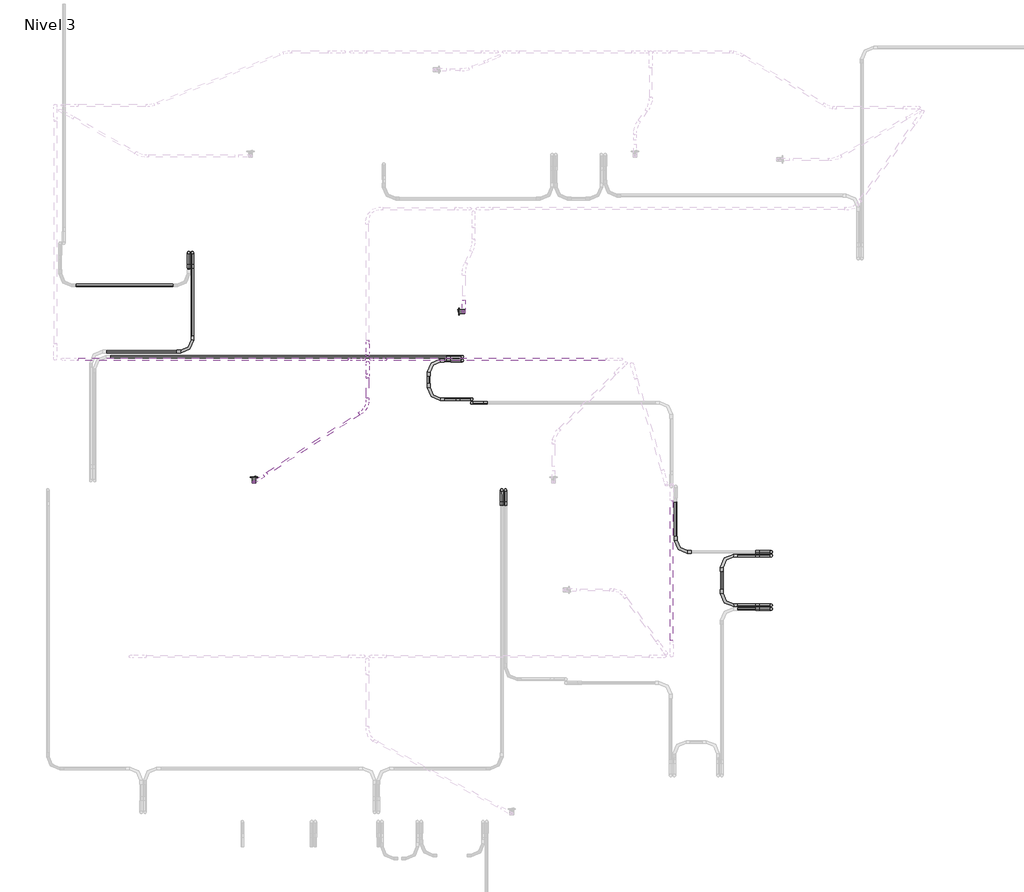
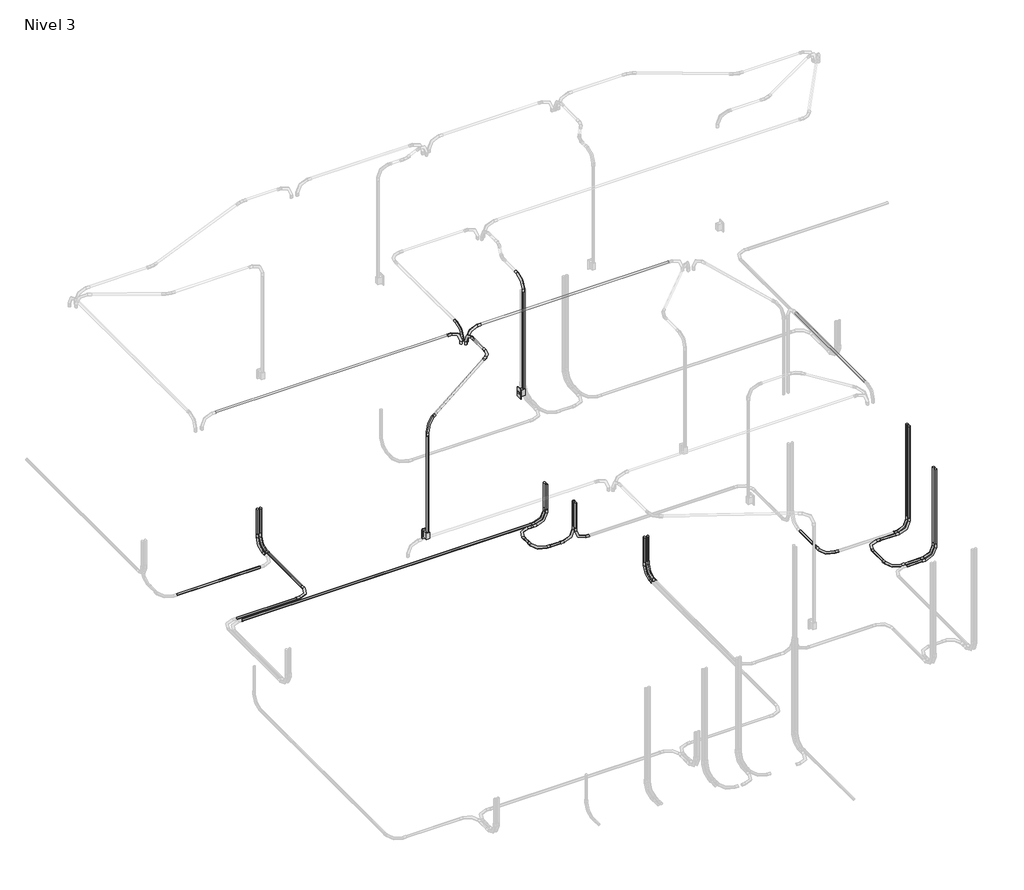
# One storey, part 7 of 9: 32 cable carrier segments, 25 cable carrier fittings, 2 switching devices.
"""IFC4 building model written with IfcOpenShell, lengths in millimetres."""

from ifc_helpers import new_model, si_unit, point, frame, frame_2d, origin, place, context, project, spatial, circle_curve, trimmed, segment, composite_curve, outline, extrude, transform, mapped, element, save
from components import m_codo_de_tubo_extremo_liso_pvc_9da73e12, m_codo_de_tubo_extremo_liso_pvc_102f0f41, m_codo_de_tubo_extremo_liso_pvc_76d9b60b, switching_device_22fed34b

model = new_model("IFC4")

# Units and contexts
model_context = context("Model", 3, world=origin())
ifc_project = project(units=[si_unit("LENGTHUNIT", "METRE", prefix="MILLI")], contexts=[model_context])

# Site, building, storey
site = spatial("IfcSite", under=ifc_project)
building = spatial("IfcBuilding", under=site)
storey = spatial("IfcBuildingStorey", under=building, Name="Nivel 3", Elevation=5450.0)

# Cable carrier fittings
placement = place(None, origin())
m_codo_de_tubo_extremo_liso_pvc_shape = m_codo_de_tubo_extremo_liso_pvc_9da73e12(model_context)
element("IfcCableCarrierFitting", 1, ObjectType="M_Codo de tubo - Extremo liso - PVC : CODO POTENCIA", at=placement, inside=storey, context=model_context, shape_type="MappedRepresentation", body=[
    mapped(m_codo_de_tubo_extremo_liso_pvc_shape, transform((693.5135129, 14563.117219, 5380.0), x_axis=(0.0, 0.0, -1.0), y_axis=(0.0, -1.0, 0.0), z_axis=(-1.0, 0.0, 0.0))),
])
element("IfcCableCarrierFitting", 2, ObjectType="M_Codo de tubo - Extremo liso - PVC : CODO POTENCIA", at=placement, inside=storey, context=model_context, shape_type="MappedRepresentation", body=[
    mapped(m_codo_de_tubo_extremo_liso_pvc_shape, transform((657.4498733, 14563.117219, 5380.0), x_axis=(0.0, 0.0, -1.0), y_axis=(0.0, -1.0, 0.0), z_axis=(-1.0, 0.0, 0.0))),
])
element("IfcCableCarrierFitting", 3, ObjectType="M_Codo de tubo - Extremo liso - PVC : CODO POTENCIA", at=placement, inside=storey, context=model_context, shape_type="MappedRepresentation", body=[
    mapped(m_codo_de_tubo_extremo_liso_pvc_shape, transform((6344.6371118, 11639.3432469, 5380.0), x_axis=(0.0, 0.0, -1.0), y_axis=(-1.0, 0.0, 0.0), z_axis=(0.0, 1.0, 0.0))),
])
element("IfcCableCarrierFitting", 4, ObjectType="M_Codo de tubo - Extremo liso - PVC : CODO POTENCIA", at=placement, inside=storey, context=model_context, shape_type="MappedRepresentation", body=[
    mapped(m_codo_de_tubo_extremo_liso_pvc_shape, transform((6344.6371118, 11603.2796073, 5380.0), x_axis=(0.0, 0.0, -1.0), y_axis=(-1.0, 0.0, 0.0), z_axis=(0.0, 1.0, 0.0))),
])
element("IfcCableCarrierFitting", 5, ObjectType="M_Codo de tubo - Extremo liso - PVC : CODO POTENCIA", at=placement, inside=storey, context=model_context, shape_type="MappedRepresentation", body=[
    mapped(m_codo_de_tubo_extremo_liso_pvc_shape, transform((6344.6371118, 11118.8284868, 5380.0), x_axis=(0.0, 0.0, -1.0), y_axis=(-1.0, 0.0, 0.0), z_axis=(0.0, 1.0, 0.0))),
])
element("IfcCableCarrierFitting", 6, ObjectType="M_Codo de tubo - Extremo liso - PVC : CODO POTENCIA", at=placement, inside=storey, context=model_context, shape_type="MappedRepresentation", body=[
    mapped(m_codo_de_tubo_extremo_liso_pvc_shape, transform((6344.6371118, 11082.7648472, 5380.0), x_axis=(0.0, 0.0, -1.0), y_axis=(-1.0, 0.0, 0.0), z_axis=(0.0, 1.0, 0.0))),
])
element("IfcCableCarrierFitting", 7, ObjectType="M_Codo de tubo - Extremo liso - PVC : CODO POTENCIA", at=placement, inside=storey, context=model_context, shape_type="MappedRepresentation", body=[
    mapped(m_codo_de_tubo_extremo_liso_pvc_shape, transform((5861.9683714, 11603.2796073, 5380.0), x_axis=(-1.0, 0.0, 0.0), y_axis=(0.0, -1.0, 0.0), z_axis=(0.0, 0.0, 1.0))),
])
element("IfcCableCarrierFitting", 8, ObjectType="M_Codo de tubo - Extremo liso - PVC : CODO POTENCIA", at=placement, inside=storey, context=model_context, shape_type="MappedRepresentation", body=[
    mapped(m_codo_de_tubo_extremo_liso_pvc_shape, transform((5861.9683714, 11118.8284868, 5380.0), x_axis=(0.0, -1.0, 0.0), y_axis=(1.0, 0.0, 0.0), z_axis=(0.0, 0.0, 1.0))),
])
element("IfcCableCarrierFitting", 9, ObjectType="M_Codo de tubo - Extremo liso - PVC : CODO POTENCIA", at=placement, inside=storey, context=model_context, shape_type="MappedRepresentation", body=[
    mapped(m_codo_de_tubo_extremo_liso_pvc_shape, transform((3750.0633148, 12244.6371118, 5380.0), x_axis=(0.0, 0.0, -1.0), y_axis=(0.0, -1.0, 0.0), z_axis=(-1.0, 0.0, 0.0))),
])
element("IfcCableCarrierFitting", 10, ObjectType="M_Codo de tubo - Extremo liso - PVC : CODO POTENCIA", at=placement, inside=storey, context=model_context, shape_type="MappedRepresentation", body=[
    mapped(m_codo_de_tubo_extremo_liso_pvc_shape, transform((3713.9996751, 12244.6371118, 5380.0), x_axis=(0.0, 0.0, -1.0), y_axis=(0.0, -1.0, 0.0), z_axis=(-1.0, 0.0, 0.0))),
])
element("IfcCableCarrierFitting", 11, ObjectType="M_Codo de tubo - Extremo liso - PVC : CODO POTENCIA", at=placement, inside=storey, context=model_context, shape_type="MappedRepresentation", body=[
    mapped(m_codo_de_tubo_extremo_liso_pvc_shape, transform((3420.363469, 13095.2791789, 5380.0), x_axis=(0.0, 0.0, -1.0), y_axis=(1.0, 0.0, 0.0), z_axis=(0.0, -1.0, 0.0))),
])
element("IfcCableCarrierFitting", 12, ObjectType="M_Codo de tubo - Extremo liso - PVC : CODO POTENCIA", at=placement, inside=storey, context=model_context, shape_type="MappedRepresentation", body=[
    mapped(m_codo_de_tubo_extremo_liso_pvc_shape, transform((5411.447338, 11639.3432469, 5380.0), x_axis=(0.0, -1.0, 0.0), y_axis=(1.0, 0.0, 0.0), z_axis=(0.0, 0.0, 1.0))),
])
element("IfcCableCarrierFitting", 13, ObjectType="M_Codo de tubo - Extremo liso - PVC : CODO POTENCIA", at=placement, inside=storey, context=model_context, shape_type="MappedRepresentation", body=[
    mapped(m_codo_de_tubo_extremo_liso_pvc_shape, transform((3329.6376926, 13509.7087096, 5380.0), x_axis=(0.0, 0.0, -1.0), y_axis=(-1.0, 0.0, 0.0), z_axis=(0.0, 1.0, 0.0))),
])
element("IfcCableCarrierFitting", 14, ObjectType="M_Codo de tubo - Extremo liso - PVC : CODO POTENCIA", at=placement, inside=storey, context=model_context, shape_type="MappedRepresentation", body=[
    mapped(m_codo_de_tubo_extremo_liso_pvc_shape, transform((3329.6376926, 13545.7723493, 5380.0), x_axis=(0.0, 0.0, -1.0), y_axis=(-1.0, 0.0, 0.0), z_axis=(0.0, 1.0, 0.0))),
])
element("IfcCableCarrierFitting", 15, ObjectType="M_Codo de tubo - Extremo liso - PVC : CODO POTENCIA", at=placement, inside=storey, context=model_context, shape_type="MappedRepresentation", body=[
    mapped(m_codo_de_tubo_extremo_liso_pvc_shape, transform((3000.0, 13509.7087096, 5380.0), x_axis=(-1.0, 0.0, 0.0), y_axis=(0.0, -1.0, 0.0), z_axis=(0.0, 0.0, 1.0))),
])
element("IfcCableCarrierFitting", 16, ObjectType="M_Codo de tubo - Extremo liso - PVC : CODO POTENCIA", at=placement, inside=storey, context=model_context, shape_type="MappedRepresentation", body=[
    mapped(m_codo_de_tubo_extremo_liso_pvc_shape, transform((3000.0, 13131.3428185, 5380.0), x_axis=(0.0, -1.0, 0.0), y_axis=(1.0, 0.0, 0.0), z_axis=(0.0, 0.0, 1.0))),
])
element("IfcCableCarrierFitting", 17, ObjectType="M_Codo de tubo - Extremo liso - PVC : CODO POTENCIA", at=placement, inside=storey, context=model_context, shape_type="MappedRepresentation", body=[
    mapped(m_codo_de_tubo_extremo_liso_pvc_shape, transform((3420.363469, 13131.3428185, 5380.0), x_axis=(0.0, 0.0, -1.0), y_axis=(-1.0, 0.0, 0.0), z_axis=(0.0, 1.0, 0.0))),
])
element("IfcCableCarrierFitting", 18, ObjectType="M_Codo de tubo - Extremo liso - PVC : CODO POTENCIA", at=placement, inside=storey, context=model_context, shape_type="MappedRepresentation", body=[
    mapped(m_codo_de_tubo_extremo_liso_pvc_shape, transform((693.5135129, 13596.0465616, 5380.0), x_axis=(1.0, 0.0, 0.0), y_axis=(0.0, 1.0, 0.0), z_axis=(0.0, 0.0, 1.0))),
])
element("IfcCableCarrierFitting", 19, ObjectType="M_Codo de tubo - Extremo liso - PVC : CODO ILUMINACION", at=placement, inside=storey, context=model_context, shape_type="MappedRepresentation", body=[
    mapped(m_codo_de_tubo_extremo_liso_pvc_shape, transform((2437.1421514, 13521.2601744, 8000.0), x_axis=(-1.0, 0.0, 0.0), y_axis=(0.0, 0.0, -1.0), z_axis=(0.0, -1.0, 0.0))),
])
element("IfcCableCarrierFitting", 20, ObjectType="M_Codo de tubo - Extremo liso - PVC : CODO ILUMINACION", at=placement, inside=storey, context=model_context, shape_type="MappedRepresentation", body=[
    mapped(m_codo_de_tubo_extremo_liso_pvc_shape, transform((3343.1394564, 13985.3219698, 8000.0), x_axis=(0.0, 0.0, 1.0), y_axis=(0.0, 1.0, 0.0), z_axis=(-1.0, 0.0, 0.0))),
])
element("IfcCableCarrierFitting", 21, ObjectType="M_Codo de tubo - Extremo liso - PVC : CODO ILUMINACION", at=placement, inside=storey, context=model_context, shape_type="MappedRepresentation", body=[
    mapped(m_codo_de_tubo_extremo_liso_pvc_shape, transform((2405.2097778, 13557.4891468, 8000.0), x_axis=(0.003624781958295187, -0.9999934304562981, 0.0), y_axis=(0.0, 0.0, -1.0000000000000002), z_axis=(0.9999934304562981, 0.003624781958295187, 0.0))),
])
element("IfcCableCarrierFitting", 22, ObjectType="M_Codo de tubo - Extremo liso - PVC : CODO ILUMINACION", at=placement, inside=storey, context=model_context, shape_type="MappedRepresentation", body=[
    mapped(m_codo_de_tubo_extremo_liso_pvc_shape, transform((1294.5944838, 12321.8611243, 8000.0), x_axis=(0.0, 0.0, 1.0), y_axis=(0.8386705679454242, 0.5446390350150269, 0.0), z_axis=(-0.5446390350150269, 0.8386705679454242, 0.0))),
])
m_codo_de_tubo_extremo_liso_pvc_2_shape = m_codo_de_tubo_extremo_liso_pvc_102f0f41(model_context)
element("IfcCableCarrierFitting", 23, ObjectType="M_Codo de tubo - Extremo liso - PVC : CODO ILUMINACION", at=placement, inside=storey, context=model_context, shape_type="MappedRepresentation", body=[
    mapped(m_codo_de_tubo_extremo_liso_pvc_2_shape, transform((2369.1118904, 13521.2601744, 8000.0), x_axis=(1.0, 0.0, 0.0), y_axis=(0.0, 0.0, 1.0), z_axis=(0.0, -1.0, 0.0))),
])
element("IfcCableCarrierFitting", 24, ObjectType="M_Codo de tubo - Extremo liso - PVC : CODO ILUMINACION", at=placement, inside=storey, context=model_context, shape_type="MappedRepresentation", body=[
    mapped(m_codo_de_tubo_extremo_liso_pvc_2_shape, transform((2405.2097778, 13489.4433397, 8000.0), x_axis=(0.003624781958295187, 0.9999934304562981, 0.0), y_axis=(0.0, 0.0, 1.0000000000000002), z_axis=(0.9999934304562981, -0.003624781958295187, 0.0))),
])
m_codo_de_tubo_extremo_liso_pvc_3_shape = m_codo_de_tubo_extremo_liso_pvc_76d9b60b(model_context)
element("IfcCableCarrierFitting", 25, ObjectType="M_Codo de tubo - Extremo liso - PVC : CODO ILUMINACION", at=placement, inside=storey, context=model_context, shape_type="MappedRepresentation", body=[
    mapped(m_codo_de_tubo_extremo_liso_pvc_3_shape, transform((2403.5880638, 13042.049976, 8000.0), x_axis=(0.8386705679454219, 0.5446390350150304, 0.0), y_axis=(-0.5446390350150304, 0.8386705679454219, 0.0), z_axis=(0.0, 0.0, 1.0))),
])

# Cable carrier segments
element("IfcCableCarrierSegment", 26, ObjectType="PVC-SEL, POTENCIA", at=placement, inside=storey, context=model_context, shape_type="SweptSolid", body=[
    extrude(outline(composite_curve([segment(trimmed(circle_curve(frame_2d((5380.0, 693.5135129)), 11.71), [point((5380.0, 681.8035129))], [point((5368.29, 693.5135129))], False, "CARTESIAN"), True, "CONTINUOUS"), segment(trimmed(circle_curve(frame_2d((5380.0, 693.5135129)), 11.71), [point((5368.29, 693.5135129))], [point((5380.0, 705.2235129))], False, "CARTESIAN"), True, "CONTINUOUS"), segment(trimmed(circle_curve(frame_2d((5380.0, 693.5135129)), 11.71), [point((5380.0, 705.2235129))], [point((5391.71, 693.5135129))], False, "CARTESIAN"), True, "CONTINUOUS"), segment(trimmed(circle_curve(frame_2d((5380.0, 693.5135129)), 11.71), [point((5391.71, 693.5135129))], [point((5380.0, 681.8035129))], False, "CARTESIAN"), True, "CONTINUOUS")], self_intersect=False)), frame((0.0, 13748.4465616, 0.0), z_axis=(0.0, 1.0, 0.0), x_axis=(0.0, 0.0, 1.0)), (0.0, 0.0, 1.0), 662.2706574),
])
element("IfcCableCarrierSegment", 27, ObjectType="PVC-SEL, POTENCIA", at=placement, inside=storey, context=model_context, shape_type="SweptSolid", body=[
    extrude(outline(composite_curve([segment(trimmed(circle_curve(frame_2d((693.5135129, 14563.117219)), 11.71), [point((705.2235129, 14563.117219))], [point((693.5135129, 14551.407219))], False, "CARTESIAN"), True, "CONTINUOUS"), segment(trimmed(circle_curve(frame_2d((693.5135129, 14563.117219)), 11.71), [point((693.5135129, 14551.407219))], [point((681.8035129, 14563.117219))], False, "CARTESIAN"), True, "CONTINUOUS"), segment(trimmed(circle_curve(frame_2d((693.5135129, 14563.117219)), 11.71), [point((681.8035129, 14563.117219))], [point((693.5135129, 14574.827219))], False, "CARTESIAN"), True, "CONTINUOUS"), segment(trimmed(circle_curve(frame_2d((693.5135129, 14563.117219)), 11.71), [point((693.5135129, 14574.827219))], [point((705.2235129, 14563.117219))], False, "CARTESIAN"), True, "CONTINUOUS")], self_intersect=False)), frame((0.0, 0.0, 5532.4), z_axis=(0.0, 0.0, 1.0), x_axis=(1.0, 0.0, 0.0)), (0.0, 0.0, 1.0), 297.3020537),
])
element("IfcCableCarrierSegment", 28, ObjectType="PVC-SEL, POTENCIA", at=placement, inside=storey, context=model_context, shape_type="SweptSolid", body=[
    extrude(outline(composite_curve([segment(trimmed(circle_curve(frame_2d((5380.0, 657.4498733)), 11.71), [point((5380.0, 645.7398733))], [point((5368.29, 657.4498733))], False, "CARTESIAN"), True, "CONTINUOUS"), segment(trimmed(circle_curve(frame_2d((5380.0, 657.4498733)), 11.71), [point((5368.29, 657.4498733))], [point((5380.0, 669.1598733))], False, "CARTESIAN"), True, "CONTINUOUS"), segment(trimmed(circle_curve(frame_2d((5380.0, 657.4498733)), 11.71), [point((5380.0, 669.1598733))], [point((5391.71, 657.4498733))], False, "CARTESIAN"), True, "CONTINUOUS"), segment(trimmed(circle_curve(frame_2d((5380.0, 657.4498733)), 11.71), [point((5391.71, 657.4498733))], [point((5380.0, 645.7398733))], False, "CARTESIAN"), True, "CONTINUOUS")], self_intersect=False)), frame((0.0, 14395.517219, 0.0), z_axis=(0.0, 1.0, 0.0), x_axis=(0.0, 0.0, 1.0)), (0.0, 0.0, 1.0), 15.2),
])
element("IfcCableCarrierSegment", 29, ObjectType="PVC-SEL, POTENCIA", at=placement, inside=storey, context=model_context, shape_type="SweptSolid", body=[
    extrude(outline(composite_curve([segment(trimmed(circle_curve(frame_2d((657.4498733, 14563.117219)), 11.71), [point((669.1598733, 14563.117219))], [point((657.4498733, 14551.407219))], False, "CARTESIAN"), True, "CONTINUOUS"), segment(trimmed(circle_curve(frame_2d((657.4498733, 14563.117219)), 11.71), [point((657.4498733, 14551.407219))], [point((645.7398733, 14563.117219))], False, "CARTESIAN"), True, "CONTINUOUS"), segment(trimmed(circle_curve(frame_2d((657.4498733, 14563.117219)), 11.71), [point((645.7398733, 14563.117219))], [point((657.4498733, 14574.827219))], False, "CARTESIAN"), True, "CONTINUOUS"), segment(trimmed(circle_curve(frame_2d((657.4498733, 14563.117219)), 11.71), [point((657.4498733, 14574.827219))], [point((669.1598733, 14563.117219))], False, "CARTESIAN"), True, "CONTINUOUS")], self_intersect=False)), frame((0.0, 0.0, 5532.4), z_axis=(0.0, 0.0, 1.0), x_axis=(1.0, 0.0, 0.0)), (0.0, 0.0, 1.0), 297.3020537),
])
element("IfcCableCarrierSegment", 30, ObjectType="PVC-SEL, POTENCIA", at=placement, inside=storey, context=model_context, shape_type="SweptSolid", body=[
    extrude(outline(composite_curve([segment(trimmed(circle_curve(frame_2d((6344.6371118, 11639.3432469)), 11.71), [point((6356.3471118, 11639.3432469))], [point((6344.6371118, 11627.6332469))], False, "CARTESIAN"), True, "CONTINUOUS"), segment(trimmed(circle_curve(frame_2d((6344.6371118, 11639.3432469)), 11.71), [point((6344.6371118, 11627.6332469))], [point((6332.9271118, 11639.3432469))], False, "CARTESIAN"), True, "CONTINUOUS"), segment(trimmed(circle_curve(frame_2d((6344.6371118, 11639.3432469)), 11.71), [point((6332.9271118, 11639.3432469))], [point((6344.6371118, 11651.0532469))], False, "CARTESIAN"), True, "CONTINUOUS"), segment(trimmed(circle_curve(frame_2d((6344.6371118, 11639.3432469)), 11.71), [point((6344.6371118, 11651.0532469))], [point((6356.3471118, 11639.3432469))], False, "CARTESIAN"), True, "CONTINUOUS")], self_intersect=False)), frame((0.0, 0.0, 5532.4), z_axis=(0.0, 0.0, 1.0), x_axis=(1.0, 0.0, 0.0)), (0.0, 0.0, 1.0), 1097.3020537),
])
element("IfcCableCarrierSegment", 31, ObjectType="PVC-SEL, POTENCIA", at=placement, inside=storey, context=model_context, shape_type="SweptSolid", body=[
    extrude(outline(composite_curve([segment(trimmed(circle_curve(frame_2d((11603.2796073, 5380.0)), 11.71), [point((11614.9896073, 5380.0))], [point((11603.2796073, 5368.29))], False, "CARTESIAN"), True, "CONTINUOUS"), segment(trimmed(circle_curve(frame_2d((11603.2796073, 5380.0)), 11.71), [point((11603.2796073, 5368.29))], [point((11591.5696073, 5380.0))], False, "CARTESIAN"), True, "CONTINUOUS"), segment(trimmed(circle_curve(frame_2d((11603.2796073, 5380.0)), 11.71), [point((11591.5696073, 5380.0))], [point((11603.2796073, 5391.71))], False, "CARTESIAN"), True, "CONTINUOUS"), segment(trimmed(circle_curve(frame_2d((11603.2796073, 5380.0)), 11.71), [point((11603.2796073, 5391.71))], [point((11614.9896073, 5380.0))], False, "CARTESIAN"), True, "CONTINUOUS")], self_intersect=False)), frame((6014.3683714, 0.0, 0.0), z_axis=(1.0, 0.0, 0.0), x_axis=(0.0, 1.0, 0.0)), (0.0, 0.0, 1.0), 177.8687404),
])
element("IfcCableCarrierSegment", 32, ObjectType="PVC-SEL, POTENCIA", at=placement, inside=storey, context=model_context, shape_type="SweptSolid", body=[
    extrude(outline(composite_curve([segment(trimmed(circle_curve(frame_2d((6344.6371118, 11603.2796073)), 11.71), [point((6356.3471118, 11603.2796073))], [point((6344.6371118, 11591.5696073))], False, "CARTESIAN"), True, "CONTINUOUS"), segment(trimmed(circle_curve(frame_2d((6344.6371118, 11603.2796073)), 11.71), [point((6344.6371118, 11591.5696073))], [point((6332.9271118, 11603.2796073))], False, "CARTESIAN"), True, "CONTINUOUS"), segment(trimmed(circle_curve(frame_2d((6344.6371118, 11603.2796073)), 11.71), [point((6332.9271118, 11603.2796073))], [point((6344.6371118, 11614.9896073))], False, "CARTESIAN"), True, "CONTINUOUS"), segment(trimmed(circle_curve(frame_2d((6344.6371118, 11603.2796073)), 11.71), [point((6344.6371118, 11614.9896073))], [point((6356.3471118, 11603.2796073))], False, "CARTESIAN"), True, "CONTINUOUS")], self_intersect=False)), frame((0.0, 0.0, 5532.4), z_axis=(0.0, 0.0, 1.0), x_axis=(1.0, 0.0, 0.0)), (0.0, 0.0, 1.0), 1097.3020537),
])
element("IfcCableCarrierSegment", 33, ObjectType="PVC-SEL, POTENCIA", at=placement, inside=storey, context=model_context, shape_type="SweptSolid", body=[
    extrude(outline(composite_curve([segment(trimmed(circle_curve(frame_2d((11118.8284868, 5380.0)), 11.71), [point((11130.5384868, 5380.0))], [point((11118.8284868, 5368.29))], False, "CARTESIAN"), True, "CONTINUOUS"), segment(trimmed(circle_curve(frame_2d((11118.8284868, 5380.0)), 11.71), [point((11118.8284868, 5368.29))], [point((11107.1184868, 5380.0))], False, "CARTESIAN"), True, "CONTINUOUS"), segment(trimmed(circle_curve(frame_2d((11118.8284868, 5380.0)), 11.71), [point((11107.1184868, 5380.0))], [point((11118.8284868, 5391.71))], False, "CARTESIAN"), True, "CONTINUOUS"), segment(trimmed(circle_curve(frame_2d((11118.8284868, 5380.0)), 11.71), [point((11118.8284868, 5391.71))], [point((11130.5384868, 5380.0))], False, "CARTESIAN"), True, "CONTINUOUS")], self_intersect=False)), frame((6014.3683714, 0.0, 0.0), z_axis=(1.0, 0.0, 0.0), x_axis=(0.0, 1.0, 0.0)), (0.0, 0.0, 1.0), 177.8687404),
])
element("IfcCableCarrierSegment", 34, ObjectType="PVC-SEL, POTENCIA", at=placement, inside=storey, context=model_context, shape_type="SweptSolid", body=[
    extrude(outline(composite_curve([segment(trimmed(circle_curve(frame_2d((6344.6371118, 11118.8284868)), 11.71), [point((6356.3471118, 11118.8284868))], [point((6344.6371118, 11107.1184868))], False, "CARTESIAN"), True, "CONTINUOUS"), segment(trimmed(circle_curve(frame_2d((6344.6371118, 11118.8284868)), 11.71), [point((6344.6371118, 11107.1184868))], [point((6332.9271118, 11118.8284868))], False, "CARTESIAN"), True, "CONTINUOUS"), segment(trimmed(circle_curve(frame_2d((6344.6371118, 11118.8284868)), 11.71), [point((6332.9271118, 11118.8284868))], [point((6344.6371118, 11130.5384868))], False, "CARTESIAN"), True, "CONTINUOUS"), segment(trimmed(circle_curve(frame_2d((6344.6371118, 11118.8284868)), 11.71), [point((6344.6371118, 11130.5384868))], [point((6356.3471118, 11118.8284868))], False, "CARTESIAN"), True, "CONTINUOUS")], self_intersect=False)), frame((0.0, 0.0, 5532.4), z_axis=(0.0, 0.0, 1.0), x_axis=(1.0, 0.0, 0.0)), (0.0, 0.0, 1.0), 897.3020537),
])
element("IfcCableCarrierSegment", 35, ObjectType="PVC-SEL, POTENCIA", at=placement, inside=storey, context=model_context, shape_type="SweptSolid", body=[
    extrude(outline(composite_curve([segment(trimmed(circle_curve(frame_2d((11082.7648472, 5380.0)), 11.71), [point((11094.4748472, 5380.0))], [point((11082.7648472, 5368.29))], False, "CARTESIAN"), True, "CONTINUOUS"), segment(trimmed(circle_curve(frame_2d((11082.7648472, 5380.0)), 11.71), [point((11082.7648472, 5368.29))], [point((11071.0548472, 5380.0))], False, "CARTESIAN"), True, "CONTINUOUS"), segment(trimmed(circle_curve(frame_2d((11082.7648472, 5380.0)), 11.71), [point((11071.0548472, 5380.0))], [point((11082.7648472, 5391.71))], False, "CARTESIAN"), True, "CONTINUOUS"), segment(trimmed(circle_curve(frame_2d((11082.7648472, 5380.0)), 11.71), [point((11082.7648472, 5391.71))], [point((11094.4748472, 5380.0))], False, "CARTESIAN"), True, "CONTINUOUS")], self_intersect=False)), frame((6014.3683714, 0.0, 0.0), z_axis=(1.0, 0.0, 0.0), x_axis=(0.0, 1.0, 0.0)), (0.0, 0.0, 1.0), 177.8687404),
])
element("IfcCableCarrierSegment", 36, ObjectType="PVC-SEL, POTENCIA", at=placement, inside=storey, context=model_context, shape_type="SweptSolid", body=[
    extrude(outline(composite_curve([segment(trimmed(circle_curve(frame_2d((6344.6371118, 11082.7648472)), 11.71), [point((6356.3471118, 11082.7648472))], [point((6344.6371118, 11071.0548472))], False, "CARTESIAN"), True, "CONTINUOUS"), segment(trimmed(circle_curve(frame_2d((6344.6371118, 11082.7648472)), 11.71), [point((6344.6371118, 11071.0548472))], [point((6332.9271118, 11082.7648472))], False, "CARTESIAN"), True, "CONTINUOUS"), segment(trimmed(circle_curve(frame_2d((6344.6371118, 11082.7648472)), 11.71), [point((6332.9271118, 11082.7648472))], [point((6344.6371118, 11094.4748472))], False, "CARTESIAN"), True, "CONTINUOUS"), segment(trimmed(circle_curve(frame_2d((6344.6371118, 11082.7648472)), 11.71), [point((6344.6371118, 11094.4748472))], [point((6356.3471118, 11082.7648472))], False, "CARTESIAN"), True, "CONTINUOUS")], self_intersect=False)), frame((0.0, 0.0, 5532.4), z_axis=(0.0, 0.0, 1.0), x_axis=(1.0, 0.0, 0.0)), (0.0, 0.0, 1.0), 897.3020537),
])
element("IfcCableCarrierSegment", 37, ObjectType="PVC-SEL, POTENCIA", at=placement, inside=storey, context=model_context, shape_type="SweptSolid", body=[
    extrude(outline(composite_curve([segment(trimmed(circle_curve(frame_2d((5380.0, 5861.9683714)), 11.71), [point((5380.0, 5850.2583714))], [point((5368.29, 5861.9683714))], False, "CARTESIAN"), True, "CONTINUOUS"), segment(trimmed(circle_curve(frame_2d((5380.0, 5861.9683714)), 11.71), [point((5368.29, 5861.9683714))], [point((5380.0, 5873.6783714))], False, "CARTESIAN"), True, "CONTINUOUS"), segment(trimmed(circle_curve(frame_2d((5380.0, 5861.9683714)), 11.71), [point((5380.0, 5873.6783714))], [point((5391.71, 5861.9683714))], False, "CARTESIAN"), True, "CONTINUOUS"), segment(trimmed(circle_curve(frame_2d((5380.0, 5861.9683714)), 11.71), [point((5391.71, 5861.9683714))], [point((5380.0, 5850.2583714))], False, "CARTESIAN"), True, "CONTINUOUS")], self_intersect=False)), frame((0.0, 11271.2284868, 0.0), z_axis=(0.0, 1.0, 0.0), x_axis=(0.0, 0.0, 1.0)), (0.0, 0.0, 1.0), 179.6511205),
])
element("IfcCableCarrierSegment", 38, ObjectType="PVC-SEL, POTENCIA", at=placement, inside=storey, context=model_context, shape_type="SweptSolid", body=[
    extrude(outline(composite_curve([segment(trimmed(circle_curve(frame_2d((3750.0633148, 12244.6371118)), 11.71), [point((3761.7733148, 12244.6371118))], [point((3750.0633148, 12232.9271118))], False, "CARTESIAN"), True, "CONTINUOUS"), segment(trimmed(circle_curve(frame_2d((3750.0633148, 12244.6371118)), 11.71), [point((3750.0633148, 12232.9271118))], [point((3738.3533148, 12244.6371118))], False, "CARTESIAN"), True, "CONTINUOUS"), segment(trimmed(circle_curve(frame_2d((3750.0633148, 12244.6371118)), 11.71), [point((3738.3533148, 12244.6371118))], [point((3750.0633148, 12256.3471118))], False, "CARTESIAN"), True, "CONTINUOUS"), segment(trimmed(circle_curve(frame_2d((3750.0633148, 12244.6371118)), 11.71), [point((3750.0633148, 12256.3471118))], [point((3761.7733148, 12244.6371118))], False, "CARTESIAN"), True, "CONTINUOUS")], self_intersect=False)), frame((0.0, 0.0, 5532.4), z_axis=(0.0, 0.0, 1.0), x_axis=(1.0, 0.0, 0.0)), (0.0, 0.0, 1.0), 297.3020537),
])
element("IfcCableCarrierSegment", 39, ObjectType="PVC-SEL, POTENCIA", at=placement, inside=storey, context=model_context, shape_type="SweptSolid", body=[
    extrude(outline(composite_curve([segment(trimmed(circle_curve(frame_2d((3713.9996751, 12244.6371118)), 11.71), [point((3725.7096751, 12244.6371118))], [point((3713.9996751, 12232.9271118))], False, "CARTESIAN"), True, "CONTINUOUS"), segment(trimmed(circle_curve(frame_2d((3713.9996751, 12244.6371118)), 11.71), [point((3713.9996751, 12232.9271118))], [point((3702.2896751, 12244.6371118))], False, "CARTESIAN"), True, "CONTINUOUS"), segment(trimmed(circle_curve(frame_2d((3713.9996751, 12244.6371118)), 11.71), [point((3702.2896751, 12244.6371118))], [point((3713.9996751, 12256.3471118))], False, "CARTESIAN"), True, "CONTINUOUS"), segment(trimmed(circle_curve(frame_2d((3713.9996751, 12244.6371118)), 11.71), [point((3713.9996751, 12256.3471118))], [point((3725.7096751, 12244.6371118))], False, "CARTESIAN"), True, "CONTINUOUS")], self_intersect=False)), frame((0.0, 0.0, 5532.4), z_axis=(0.0, 0.0, 1.0), x_axis=(1.0, 0.0, 0.0)), (0.0, 0.0, 1.0), 297.3020537),
])
element("IfcCableCarrierSegment", 40, ObjectType="PVC-SEL, POTENCIA", at=placement, inside=storey, context=model_context, shape_type="SweptSolid", body=[
    extrude(outline(composite_curve([segment(trimmed(circle_curve(frame_2d((3420.363469, 13095.2791789)), 11.71), [point((3432.073469, 13095.2791789))], [point((3420.363469, 13083.5691789))], False, "CARTESIAN"), True, "CONTINUOUS"), segment(trimmed(circle_curve(frame_2d((3420.363469, 13095.2791789)), 11.71), [point((3420.363469, 13083.5691789))], [point((3408.653469, 13095.2791789))], False, "CARTESIAN"), True, "CONTINUOUS"), segment(trimmed(circle_curve(frame_2d((3420.363469, 13095.2791789)), 11.71), [point((3408.653469, 13095.2791789))], [point((3420.363469, 13106.9891789))], False, "CARTESIAN"), True, "CONTINUOUS"), segment(trimmed(circle_curve(frame_2d((3420.363469, 13095.2791789)), 11.71), [point((3420.363469, 13106.9891789))], [point((3432.073469, 13095.2791789))], False, "CARTESIAN"), True, "CONTINUOUS")], self_intersect=False)), frame((0.0, 0.0, 5532.4), z_axis=(0.0, 0.0, 1.0), x_axis=(1.0, 0.0, 0.0)), (0.0, 0.0, 1.0), 297.3020537),
])
element("IfcCableCarrierSegment", 41, ObjectType="PVC-SEL, POTENCIA", at=placement, inside=storey, context=model_context, shape_type="SweptSolid", body=[
    extrude(outline(composite_curve([segment(trimmed(circle_curve(frame_2d((5380.0, 5411.447338)), 11.71), [point((5380.0, 5423.157338))], [point((5391.71, 5411.447338))], False, "CARTESIAN"), True, "CONTINUOUS"), segment(trimmed(circle_curve(frame_2d((5380.0, 5411.447338)), 11.71), [point((5391.71, 5411.447338))], [point((5380.0, 5399.737338))], False, "CARTESIAN"), True, "CONTINUOUS"), segment(trimmed(circle_curve(frame_2d((5380.0, 5411.447338)), 11.71), [point((5380.0, 5399.737338))], [point((5368.29, 5411.447338))], False, "CARTESIAN"), True, "CONTINUOUS"), segment(trimmed(circle_curve(frame_2d((5380.0, 5411.447338)), 11.71), [point((5368.29, 5411.447338))], [point((5380.0, 5423.157338))], False, "CARTESIAN"), True, "CONTINUOUS")], self_intersect=False)), frame((0.0, 11791.7432469, 0.0), z_axis=(0.0, 1.0, 0.0), x_axis=(0.0, 0.0, 1.0)), (0.0, 0.0, 1.0), 335.2),
])
element("IfcCableCarrierSegment", 42, ObjectType="PVC-SEL, POTENCIA", at=placement, inside=storey, context=model_context, shape_type="SweptSolid", body=[
    extrude(outline(composite_curve([segment(trimmed(circle_curve(frame_2d((13131.3428185, 5380.0)), 11.71), [point((13119.6328185, 5380.0))], [point((13131.3428185, 5391.71))], False, "CARTESIAN"), True, "CONTINUOUS"), segment(trimmed(circle_curve(frame_2d((13131.3428185, 5380.0)), 11.71), [point((13131.3428185, 5391.71))], [point((13143.0528185, 5380.0))], False, "CARTESIAN"), True, "CONTINUOUS"), segment(trimmed(circle_curve(frame_2d((13131.3428185, 5380.0)), 11.71), [point((13143.0528185, 5380.0))], [point((13131.3428185, 5368.29))], False, "CARTESIAN"), True, "CONTINUOUS"), segment(trimmed(circle_curve(frame_2d((13131.3428185, 5380.0)), 11.71), [point((13131.3428185, 5368.29))], [point((13119.6328185, 5380.0))], False, "CARTESIAN"), True, "CONTINUOUS")], self_intersect=False)), frame((3152.4, 0.0, 0.0), z_axis=(1.0, 0.0, 0.0), x_axis=(0.0, 1.0, 0.0)), (0.0, 0.0, 1.0), 115.563469),
])
element("IfcCableCarrierSegment", 43, ObjectType="PVC-SEL, POTENCIA", at=placement, inside=storey, context=model_context, shape_type="SweptSolid", body=[
    extrude(outline(composite_curve([segment(trimmed(circle_curve(frame_2d((3420.363469, 13131.3428185)), 11.71), [point((3432.073469, 13131.3428185))], [point((3420.363469, 13119.6328185))], False, "CARTESIAN"), True, "CONTINUOUS"), segment(trimmed(circle_curve(frame_2d((3420.363469, 13131.3428185)), 11.71), [point((3420.363469, 13119.6328185))], [point((3408.653469, 13131.3428185))], False, "CARTESIAN"), True, "CONTINUOUS"), segment(trimmed(circle_curve(frame_2d((3420.363469, 13131.3428185)), 11.71), [point((3408.653469, 13131.3428185))], [point((3420.363469, 13143.0528185))], False, "CARTESIAN"), True, "CONTINUOUS"), segment(trimmed(circle_curve(frame_2d((3420.363469, 13131.3428185)), 11.71), [point((3420.363469, 13143.0528185))], [point((3432.073469, 13131.3428185))], False, "CARTESIAN"), True, "CONTINUOUS")], self_intersect=False)), frame((0.0, 0.0, 5532.4), z_axis=(0.0, 0.0, 1.0), x_axis=(1.0, 0.0, 0.0)), (0.0, 0.0, 1.0), 297.3020537),
])
element("IfcCableCarrierSegment", 44, ObjectType="PVC-SEL, POTENCIA", at=placement, inside=storey, context=model_context, shape_type="SweptSolid", body=[
    extrude(outline(composite_curve([segment(trimmed(circle_curve(frame_2d((13509.7087096, 5380.0)), 11.71), [point((13521.4187096, 5380.0))], [point((13509.7087096, 5368.29))], False, "CARTESIAN"), True, "CONTINUOUS"), segment(trimmed(circle_curve(frame_2d((13509.7087096, 5380.0)), 11.71), [point((13509.7087096, 5368.29))], [point((13497.9987096, 5380.0))], False, "CARTESIAN"), True, "CONTINUOUS"), segment(trimmed(circle_curve(frame_2d((13509.7087096, 5380.0)), 11.71), [point((13497.9987096, 5380.0))], [point((13509.7087096, 5391.71))], False, "CARTESIAN"), True, "CONTINUOUS"), segment(trimmed(circle_curve(frame_2d((13509.7087096, 5380.0)), 11.71), [point((13509.7087096, 5391.71))], [point((13521.4187096, 5380.0))], False, "CARTESIAN"), True, "CONTINUOUS")], self_intersect=False)), frame((3152.4, 0.0, 0.0), z_axis=(1.0, 0.0, 0.0), x_axis=(0.0, 1.0, 0.0)), (0.0, 0.0, 1.0), 24.8376926),
])
element("IfcCableCarrierSegment", 45, ObjectType="PVC-SEL, POTENCIA", at=placement, inside=storey, context=model_context, shape_type="SweptSolid", body=[
    extrude(outline(composite_curve([segment(trimmed(circle_curve(frame_2d((3329.6376926, 13509.7087096)), 11.71), [point((3341.3476926, 13509.7087096))], [point((3329.6376926, 13497.9987096))], False, "CARTESIAN"), True, "CONTINUOUS"), segment(trimmed(circle_curve(frame_2d((3329.6376926, 13509.7087096)), 11.71), [point((3329.6376926, 13497.9987096))], [point((3317.9276926, 13509.7087096))], False, "CARTESIAN"), True, "CONTINUOUS"), segment(trimmed(circle_curve(frame_2d((3329.6376926, 13509.7087096)), 11.71), [point((3317.9276926, 13509.7087096))], [point((3329.6376926, 13521.4187096))], False, "CARTESIAN"), True, "CONTINUOUS"), segment(trimmed(circle_curve(frame_2d((3329.6376926, 13509.7087096)), 11.71), [point((3329.6376926, 13521.4187096))], [point((3341.3476926, 13509.7087096))], False, "CARTESIAN"), True, "CONTINUOUS")], self_intersect=False)), frame((0.0, 0.0, 5532.4), z_axis=(0.0, 0.0, 1.0), x_axis=(1.0, 0.0, 0.0)), (0.0, 0.0, 1.0), 297.3020537),
])
element("IfcCableCarrierSegment", 46, ObjectType="PVC-SEL, POTENCIA", at=placement, inside=storey, context=model_context, shape_type="SweptSolid", body=[
    extrude(outline(composite_curve([segment(trimmed(circle_curve(frame_2d((13545.7723493, 5380.0)), 11.71), [point((13557.4823493, 5380.0))], [point((13545.7723493, 5368.29))], False, "CARTESIAN"), True, "CONTINUOUS"), segment(trimmed(circle_curve(frame_2d((13545.7723493, 5380.0)), 11.71), [point((13545.7723493, 5368.29))], [point((13534.0623493, 5380.0))], False, "CARTESIAN"), True, "CONTINUOUS"), segment(trimmed(circle_curve(frame_2d((13545.7723493, 5380.0)), 11.71), [point((13534.0623493, 5380.0))], [point((13545.7723493, 5391.71))], False, "CARTESIAN"), True, "CONTINUOUS"), segment(trimmed(circle_curve(frame_2d((13545.7723493, 5380.0)), 11.71), [point((13545.7723493, 5391.71))], [point((13557.4823493, 5380.0))], False, "CARTESIAN"), True, "CONTINUOUS")], self_intersect=False)), frame((-109.6312302, 0.0, 0.0), z_axis=(1.0, 0.0, 0.0), x_axis=(0.0, 1.0, 0.0)), (0.0, 0.0, 1.0), 3286.8689227),
])
element("IfcCableCarrierSegment", 47, ObjectType="PVC-SEL, POTENCIA", at=placement, inside=storey, context=model_context, shape_type="SweptSolid", body=[
    extrude(outline(composite_curve([segment(trimmed(circle_curve(frame_2d((3329.6376926, 13545.7723493)), 11.71), [point((3341.3476926, 13545.7723493))], [point((3329.6376926, 13534.0623493))], False, "CARTESIAN"), True, "CONTINUOUS"), segment(trimmed(circle_curve(frame_2d((3329.6376926, 13545.7723493)), 11.71), [point((3329.6376926, 13534.0623493))], [point((3317.9276926, 13545.7723493))], False, "CARTESIAN"), True, "CONTINUOUS"), segment(trimmed(circle_curve(frame_2d((3329.6376926, 13545.7723493)), 11.71), [point((3317.9276926, 13545.7723493))], [point((3329.6376926, 13557.4823493))], False, "CARTESIAN"), True, "CONTINUOUS"), segment(trimmed(circle_curve(frame_2d((3329.6376926, 13545.7723493)), 11.71), [point((3329.6376926, 13557.4823493))], [point((3341.3476926, 13545.7723493))], False, "CARTESIAN"), True, "CONTINUOUS")], self_intersect=False)), frame((0.0, 0.0, 5532.4), z_axis=(0.0, 0.0, 1.0), x_axis=(1.0, 0.0, 0.0)), (0.0, 0.0, 1.0), 297.3020537),
])
element("IfcCableCarrierSegment", 48, ObjectType="PVC-SEL, POTENCIA", at=placement, inside=storey, context=model_context, shape_type="SweptSolid", body=[
    extrude(outline(composite_curve([segment(trimmed(circle_curve(frame_2d((5380.0, 3000.0)), 11.71), [point((5380.0, 2988.29))], [point((5368.29, 3000.0))], False, "CARTESIAN"), True, "CONTINUOUS"), segment(trimmed(circle_curve(frame_2d((5380.0, 3000.0)), 11.71), [point((5368.29, 3000.0))], [point((5380.0, 3011.71))], False, "CARTESIAN"), True, "CONTINUOUS"), segment(trimmed(circle_curve(frame_2d((5380.0, 3000.0)), 11.71), [point((5380.0, 3011.71))], [point((5391.71, 3000.0))], False, "CARTESIAN"), True, "CONTINUOUS"), segment(trimmed(circle_curve(frame_2d((5380.0, 3000.0)), 11.71), [point((5391.71, 3000.0))], [point((5380.0, 2988.29))], False, "CARTESIAN"), True, "CONTINUOUS")], self_intersect=False)), frame((0.0, 13283.7428185, 0.0), z_axis=(0.0, 1.0, 0.0), x_axis=(0.0, 0.0, 1.0)), (0.0, 0.0, 1.0), 73.5658911),
])
element("IfcCableCarrierSegment", 49, ObjectType="PVC-SEL, POTENCIA", at=placement, inside=storey, context=model_context, shape_type="SweptSolid", body=[
    extrude(outline(composite_curve([segment(trimmed(circle_curve(frame_2d((13596.0465616, 5380.0)), 11.71), [point((13607.7565616, 5380.0))], [point((13596.0465616, 5368.29))], False, "CARTESIAN"), True, "CONTINUOUS"), segment(trimmed(circle_curve(frame_2d((13596.0465616, 5380.0)), 11.71), [point((13596.0465616, 5368.29))], [point((13584.3365616, 5380.0))], False, "CARTESIAN"), True, "CONTINUOUS"), segment(trimmed(circle_curve(frame_2d((13596.0465616, 5380.0)), 11.71), [point((13584.3365616, 5380.0))], [point((13596.0465616, 5391.71))], False, "CARTESIAN"), True, "CONTINUOUS"), segment(trimmed(circle_curve(frame_2d((13596.0465616, 5380.0)), 11.71), [point((13596.0465616, 5391.71))], [point((13607.7565616, 5380.0))], False, "CARTESIAN"), True, "CONTINUOUS")], self_intersect=False)), frame((-145.6948698, 0.0, 0.0), z_axis=(1.0, 0.0, 0.0), x_axis=(0.0, 1.0, 0.0)), (0.0, 0.0, 1.0), 686.8083827),
])
element("IfcCableCarrierSegment", 50, ObjectType="PVC-SEL, POTENCIA", at=placement, inside=storey, context=model_context, shape_type="SweptSolid", body=[
    extrude(outline(composite_curve([segment(trimmed(circle_curve(frame_2d((14243.117219, 5380.0)), 11.71), [point((14254.827219, 5380.0))], [point((14243.117219, 5368.29))], False, "CARTESIAN"), True, "CONTINUOUS"), segment(trimmed(circle_curve(frame_2d((14243.117219, 5380.0)), 11.71), [point((14243.117219, 5368.29))], [point((14231.407219, 5380.0))], False, "CARTESIAN"), True, "CONTINUOUS"), segment(trimmed(circle_curve(frame_2d((14243.117219, 5380.0)), 11.71), [point((14231.407219, 5380.0))], [point((14243.117219, 5391.71))], False, "CARTESIAN"), True, "CONTINUOUS"), segment(trimmed(circle_curve(frame_2d((14243.117219, 5380.0)), 11.71), [point((14243.117219, 5391.71))], [point((14254.827219, 5380.0))], False, "CARTESIAN"), True, "CONTINUOUS")], self_intersect=False)), frame((-445.7296744, 0.0, 0.0), z_axis=(1.0, 0.0, 0.0), x_axis=(0.0, 1.0, 0.0)), (0.0, 0.0, 1.0), 950.7795477),
])
element("IfcCableCarrierSegment", 51, ObjectType="PVC-SEL ILUMINACION", at=placement, inside=storey, context=model_context, shape_type="SweptSolid", body=[
    extrude(outline(composite_curve([segment(trimmed(circle_curve(frame_2d((13521.2601744, 8000.0)), 11.71), [point((13532.9701744, 8000.0))], [point((13521.2601744, 7988.29))], False, "CARTESIAN"), True, "CONTINUOUS"), segment(trimmed(circle_curve(frame_2d((13521.2601744, 8000.0)), 11.71), [point((13521.2601744, 7988.29))], [point((13509.5501744, 8000.0))], False, "CARTESIAN"), True, "CONTINUOUS"), segment(trimmed(circle_curve(frame_2d((13521.2601744, 8000.0)), 11.71), [point((13509.5501744, 8000.0))], [point((13521.2601744, 8011.71))], False, "CARTESIAN"), True, "CONTINUOUS"), segment(trimmed(circle_curve(frame_2d((13521.2601744, 8000.0)), 11.71), [point((13521.2601744, 8011.71))], [point((13532.9701744, 8000.0))], False, "CARTESIAN"), True, "CONTINUOUS")], self_intersect=False)), frame((-422.3554902, 0.0, 0.0), z_axis=(1.0, 0.0, 0.0), x_axis=(0.0, 1.0, 0.0)), (0.0, 0.0, 1.0), 2639.0673806),
])
element("IfcCableCarrierSegment", 52, ObjectType="PVC-SEL ILUMINACION", at=placement, inside=storey, context=model_context, shape_type="SweptSolid", body=[
    extrude(outline(composite_curve([segment(trimmed(circle_curve(frame_2d((13521.2601744, 8000.0)), 11.71), [point((13532.9701744, 8000.0))], [point((13521.2601744, 7988.29))], False, "CARTESIAN"), True, "CONTINUOUS"), segment(trimmed(circle_curve(frame_2d((13521.2601744, 8000.0)), 11.71), [point((13521.2601744, 7988.29))], [point((13509.5501744, 8000.0))], False, "CARTESIAN"), True, "CONTINUOUS"), segment(trimmed(circle_curve(frame_2d((13521.2601744, 8000.0)), 11.71), [point((13509.5501744, 8000.0))], [point((13521.2601744, 8011.71))], False, "CARTESIAN"), True, "CONTINUOUS"), segment(trimmed(circle_curve(frame_2d((13521.2601744, 8000.0)), 11.71), [point((13521.2601744, 8011.71))], [point((13532.9701744, 8000.0))], False, "CARTESIAN"), True, "CONTINUOUS")], self_intersect=False)), frame((2589.5421514, 0.0, 0.0), z_axis=(1.0, 0.0, 0.0), x_axis=(0.0, 1.0, 0.0)), (0.0, 0.0, 1.0), 2137.8985062),
])
element("IfcCableCarrierSegment", 53, ObjectType="PVC-SEL ILUMINACION", at=placement, inside=storey, context=model_context, shape_type="SweptSolid", body=[
    extrude(outline(composite_curve([segment(trimmed(circle_curve(frame_2d((3343.1394564, 13985.3219698)), 11.71), [point((3331.4294564, 13985.3219698))], [point((3343.1394564, 13997.0319698))], False, "CARTESIAN"), True, "CONTINUOUS"), segment(trimmed(circle_curve(frame_2d((3343.1394564, 13985.3219698)), 11.71), [point((3343.1394564, 13997.0319698))], [point((3354.8494564, 13985.3219698))], False, "CARTESIAN"), True, "CONTINUOUS"), segment(trimmed(circle_curve(frame_2d((3343.1394564, 13985.3219698)), 11.71), [point((3354.8494564, 13985.3219698))], [point((3343.1394564, 13973.6119698))], False, "CARTESIAN"), True, "CONTINUOUS"), segment(trimmed(circle_curve(frame_2d((3343.1394564, 13985.3219698)), 11.71), [point((3343.1394564, 13973.6119698))], [point((3331.4294564, 13985.3219698))], False, "CARTESIAN"), True, "CONTINUOUS")], self_intersect=False)), frame((0.0, 0.0, 6690.2227463), z_axis=(0.0, 0.0, 1.0), x_axis=(1.0, 0.0, 0.0)), (0.0, 0.0, 1.0), 1157.3772537),
])
element("IfcCableCarrierSegment", 54, ObjectType="PVC-SEL ILUMINACION", at=placement, inside=storey, context=model_context, shape_type="SweptSolid", body=[
    extrude(outline(composite_curve([segment(trimmed(circle_curve(frame_2d((8000.0, 5372.6243482)), 11.71), [point((8000.0, 5384.3343482))], [point((8011.71, 5372.6243482))], False, "CARTESIAN"), True, "CONTINUOUS"), segment(trimmed(circle_curve(frame_2d((8000.0, 5372.6243482)), 11.71), [point((8011.71, 5372.6243482))], [point((8000.0, 5360.9143482))], False, "CARTESIAN"), True, "CONTINUOUS"), segment(trimmed(circle_curve(frame_2d((8000.0, 5372.6243482)), 11.71), [point((8000.0, 5360.9143482))], [point((7988.29, 5372.6243482))], False, "CARTESIAN"), True, "CONTINUOUS"), segment(trimmed(circle_curve(frame_2d((8000.0, 5372.6243482)), 11.71), [point((7988.29, 5372.6243482))], [point((8000.0, 5384.3343482))], False, "CARTESIAN"), True, "CONTINUOUS")], self_intersect=False)), frame((0.0, 10775.9653349, 0.0), z_axis=(0.0, 1.0, 0.0), x_axis=(0.0, 0.0, 1.0)), (0.0, 0.0, 1.0), 1367.6),
])
element("IfcCableCarrierSegment", 55, ObjectType="PVC-SEL ILUMINACION", at=placement, inside=storey, context=model_context, shape_type="SweptSolid", body=[
    extrude(outline(composite_curve([segment(trimmed(circle_curve(frame_2d((0.0, 11.71)), 11.71), [point((11.71, 11.71))], [point((0.0, 0.0))], False, "CARTESIAN"), True, "CONTINUOUS"), segment(trimmed(circle_curve(frame_2d((0.0, 11.71)), 11.71), [point((0.0, 0.0))], [point((-11.71, 11.71))], False, "CARTESIAN"), True, "CONTINUOUS"), segment(trimmed(circle_curve(frame_2d((0.0, 11.71)), 11.71), [point((-11.71, 11.71))], [point((0.0, 23.42))], False, "CARTESIAN"), True, "CONTINUOUS"), segment(trimmed(circle_curve(frame_2d((0.0, 11.71)), 11.71), [point((0.0, 23.42))], [point((11.71, 11.71))], False, "CARTESIAN"), True, "CONTINUOUS")], self_intersect=False)), frame((1422.4078784, 12404.8641133, 8011.71), z_axis=(0.8386705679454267, 0.544639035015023, 0.0), x_axis=(0.544639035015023, -0.8386705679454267, 0.0)), (0.0, 0.0, 1.0), 1070.0313636),
])
element("IfcCableCarrierSegment", 56, ObjectType="PVC-SEL ILUMINACION", at=placement, inside=storey, context=model_context, shape_type="SweptSolid", body=[
    extrude(outline(composite_curve([segment(trimmed(circle_curve(frame_2d((1294.5944838, 12321.8611243)), 11.71), [point((1282.8844838, 12321.8611243))], [point((1294.5944838, 12333.5711243))], False, "CARTESIAN"), True, "CONTINUOUS"), segment(trimmed(circle_curve(frame_2d((1294.5944838, 12321.8611243)), 11.71), [point((1294.5944838, 12333.5711243))], [point((1306.3044838, 12321.8611243))], False, "CARTESIAN"), True, "CONTINUOUS"), segment(trimmed(circle_curve(frame_2d((1294.5944838, 12321.8611243)), 11.71), [point((1306.3044838, 12321.8611243))], [point((1294.5944838, 12310.1511243))], False, "CARTESIAN"), True, "CONTINUOUS"), segment(trimmed(circle_curve(frame_2d((1294.5944838, 12321.8611243)), 11.71), [point((1294.5944838, 12310.1511243))], [point((1282.8844838, 12321.8611243))], False, "CARTESIAN"), True, "CONTINUOUS")], self_intersect=False)), frame((0.0, 0.0, 6690.2227463), z_axis=(0.0, 0.0, 1.0), x_axis=(1.0, 0.0, 0.0)), (0.0, 0.0, 1.0), 1157.3772537),
])
element("IfcCableCarrierSegment", 57, ObjectType="PVC-SEL ILUMINACION", at=placement, inside=storey, context=model_context, shape_type="SweptSolid", body=[
    extrude(outline(composite_curve([segment(trimmed(circle_curve(frame_2d((0.0, 11.71)), 11.71), [point((11.71, 11.71))], [point((0.0, 0.0))], False, "CARTESIAN"), True, "CONTINUOUS"), segment(trimmed(circle_curve(frame_2d((0.0, 11.71)), 11.71), [point((0.0, 0.0))], [point((-11.71, 11.71))], False, "CARTESIAN"), True, "CONTINUOUS"), segment(trimmed(circle_curve(frame_2d((0.0, 11.71)), 11.71), [point((-11.71, 11.71))], [point((0.0, 23.42))], False, "CARTESIAN"), True, "CONTINUOUS"), segment(trimmed(circle_curve(frame_2d((0.0, 11.71)), 11.71), [point((0.0, 23.42))], [point((11.71, 11.71))], False, "CARTESIAN"), True, "CONTINUOUS")], self_intersect=False)), frame((2403.95015, 13141.9411928, 8011.71), z_axis=(0.003624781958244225, 0.9999934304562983, 0.0), x_axis=(0.9999934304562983, -0.003624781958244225, 0.0)), (0.0, 0.0, 1.0), 195.1044298),
])

# Switching devices
switching_device_shape = switching_device_22fed34b(model_context)
element("IfcSwitchingDevice", 58, ObjectType="Interruptor : Tridireccional", at=placement, inside=storey, context=model_context, shape_type="MappedRepresentation", body=[
    mapped(switching_device_shape, transform((1294.5446382, 12365.0, 6650.0), x_axis=(-1.0, 0.0, 0.0), y_axis=(0.0, 0.0, 1.0), z_axis=(0.0, 1.0, 0.0))),
])
element("IfcSwitchingDevice", 59, ObjectType="Interruptor : Tridireccional", at=placement, inside=storey, context=model_context, shape_type="MappedRepresentation", body=[
    mapped(switching_device_shape, transform((3300.0005808, 13985.2721241, 6650.0), x_axis=(0.0, -1.0, 0.0), y_axis=(0.0, 0.0, 1.0), z_axis=(-1.0, 0.0, 0.0))),
])

save(model, "model.ifc")
